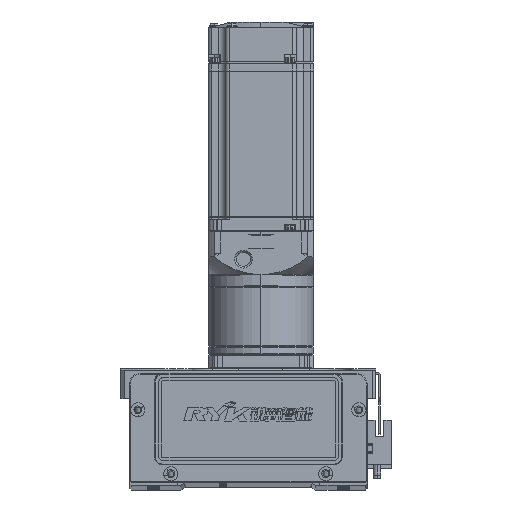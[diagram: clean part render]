
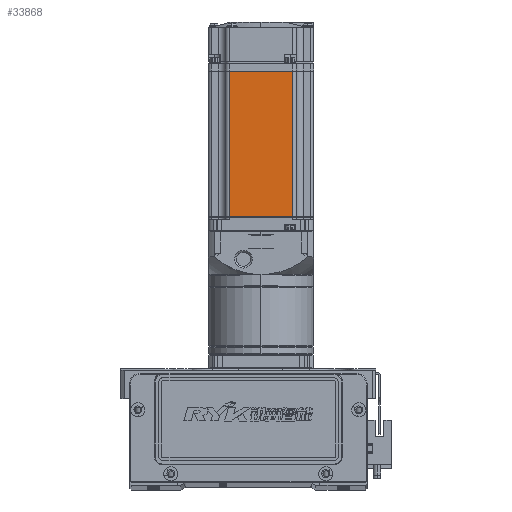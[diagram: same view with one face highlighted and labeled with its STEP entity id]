
A CAD part, top view. The second image highlights one B-rep face of the part: STEP entity #33868.
In plain terms, the highlighted planar face has unit normal (0, 0, 1).
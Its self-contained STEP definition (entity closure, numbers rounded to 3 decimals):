
#280 = DIRECTION ( 'NONE',  ( 0., -1., 0. ) ) ;
#951 = LINE ( 'NONE', #24601, #64051 ) ;
#7771 = VERTEX_POINT ( 'NONE', #74137 ) ;
#7780 = FACE_OUTER_BOUND ( 'NONE', #14377, .T. ) ;
#9835 = VERTEX_POINT ( 'NONE', #72409 ) ;
#14377 = EDGE_LOOP ( 'NONE', ( #78967, #46599, #17817, #62546 ) ) ;
#16212 = EDGE_CURVE ( 'NONE', #75469, #34449, #37630, .T. ) ;
#17817 = ORIENTED_EDGE ( 'NONE', *, *, #18099, .T. ) ;
#18099 = EDGE_CURVE ( 'NONE', #9835, #7771, #951, .T. ) ;
#20560 = CARTESIAN_POINT ( 'NONE',  ( -7.75, -18., 30. ) ) ;
#24601 = CARTESIAN_POINT ( 'NONE',  ( -90.45, 0., 30. ) ) ;
#28668 = EDGE_CURVE ( 'NONE', #34449, #7771, #34322, .T. ) ;
#29857 = EDGE_CURVE ( 'NONE', #75469, #9835, #37001, .T. ) ;
#33868 = ADVANCED_FACE ( 'NONE', ( #7780 ), #69292, .T. ) ;
#34322 = LINE ( 'NONE', #68250, #71560 ) ;
#34449 = VERTEX_POINT ( 'NONE', #20560 ) ;
#37001 = LINE ( 'NONE', #75704, #75287 ) ;
#37630 = LINE ( 'NONE', #77350, #76869 ) ;
#39309 = DIRECTION ( 'NONE',  ( -1., 0., 0. ) ) ;
#44450 = CARTESIAN_POINT ( 'NONE',  ( -6.5, -25., 30. ) ) ;
#46599 = ORIENTED_EDGE ( 'NONE', *, *, #29857, .T. ) ;
#50311 = DIRECTION ( 'NONE',  ( 0., 0., 1. ) ) ;
#51096 = DIRECTION ( 'NONE',  ( 1., 0., 0. ) ) ;
#61308 = DIRECTION ( 'NONE',  ( -1., 0., 0. ) ) ;
#62546 = ORIENTED_EDGE ( 'NONE', *, *, #28668, .F. ) ;
#64051 = VECTOR ( 'NONE', #280, 1000. ) ;
#68250 = CARTESIAN_POINT ( 'NONE',  ( -6.5, -18., 30. ) ) ;
#69292 = PLANE ( 'NONE',  #75544 ) ;
#70339 = DIRECTION ( 'NONE',  ( 0., -1., 0. ) ) ;
#71560 = VECTOR ( 'NONE', #61308, 1000. ) ;
#72409 = CARTESIAN_POINT ( 'NONE',  ( -90.45, 18., 30. ) ) ;
#74137 = CARTESIAN_POINT ( 'NONE',  ( -90.45, -18., 30. ) ) ;
#75287 = VECTOR ( 'NONE', #39309, 1000. ) ;
#75360 = CARTESIAN_POINT ( 'NONE',  ( -7.75, 18., 30. ) ) ;
#75469 = VERTEX_POINT ( 'NONE', #75360 ) ;
#75544 = AXIS2_PLACEMENT_3D ( 'NONE', #44450, #50311, #51096 ) ;
#75704 = CARTESIAN_POINT ( 'NONE',  ( -6.5, 18., 30. ) ) ;
#76869 = VECTOR ( 'NONE', #70339, 1000. ) ;
#77350 = CARTESIAN_POINT ( 'NONE',  ( -7.75, 0., 30. ) ) ;
#78967 = ORIENTED_EDGE ( 'NONE', *, *, #16212, .F. ) ;
